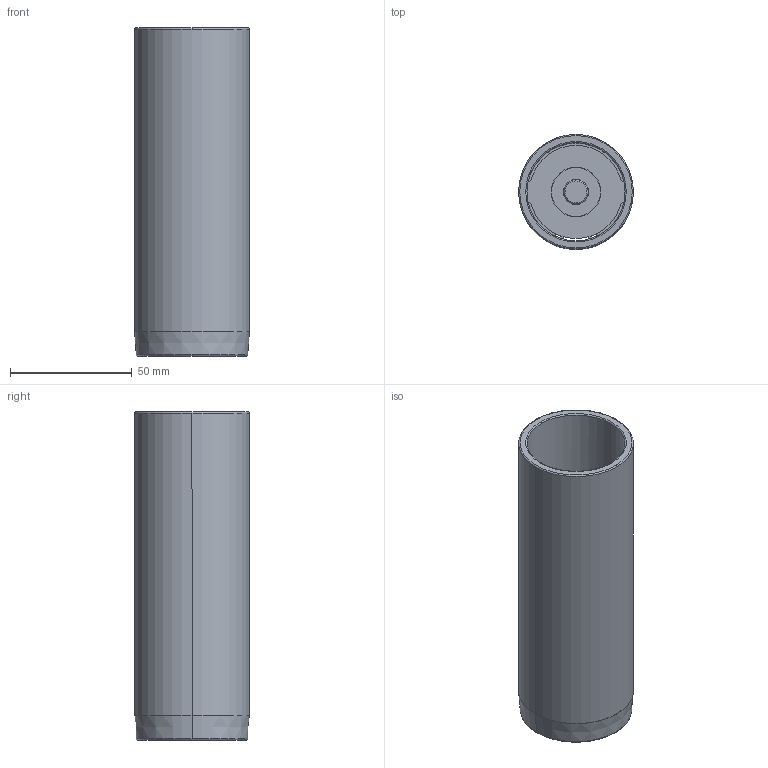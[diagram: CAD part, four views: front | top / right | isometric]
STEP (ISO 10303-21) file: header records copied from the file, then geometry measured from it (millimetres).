
FILE_DESCRIPTION((''),'2;1');
FILE_NAME('C12_040_135.stp','2009-01-28T11:35:41',(''),(''),'Mechanical Desktop 2009','Mechanical Desktop 2009',', , ');
FILE_SCHEMA(('CONFIG_CONTROL_DESIGN'));
Length unit declared in the file: millimetre
Products named in the file (2): Product; blmdl1
Assembly tree (1 placements, depth 2):
  Product
    blmdl1
Bounding box: 47.25 x 47.25 x 135 mm (x, y, z)
Volume: 68527.5 mm3; surface area: 44712.4 mm2
Topology: 5 solids, 5 shells, 79 faces, 200 edges, 134 vertices
Faces by surface type: cylinder 34, plane 29, torus 10, cone 6
Entity records: 2585 total; most frequent: DIRECTION 480, CARTESIAN_POINT 435, ORIENTED_EDGE 400, AXIS2_PLACEMENT_3D 203, EDGE_CURVE 200, VERTEX_POINT 134, CIRCLE 122, EDGE_LOOP 92
